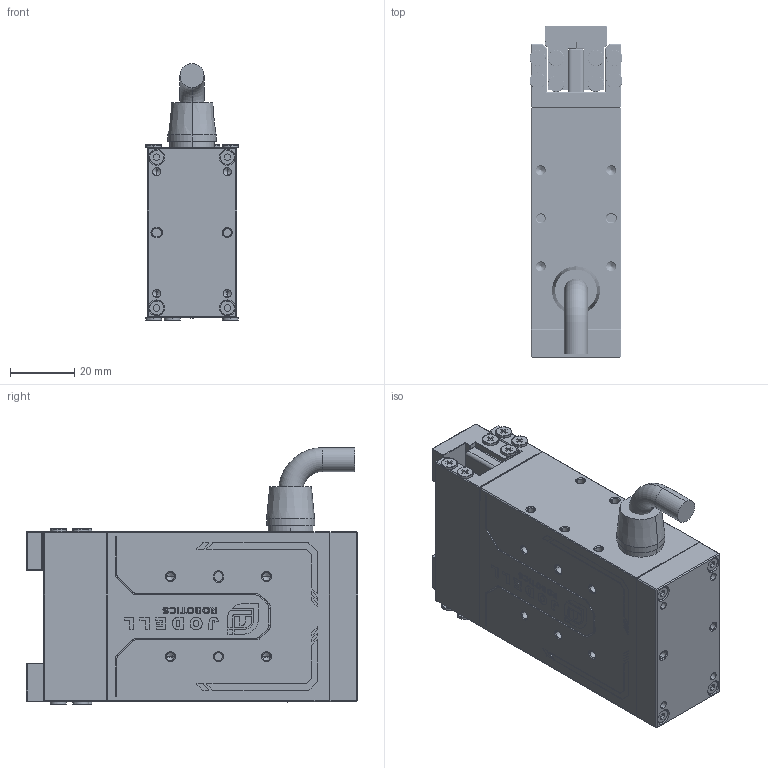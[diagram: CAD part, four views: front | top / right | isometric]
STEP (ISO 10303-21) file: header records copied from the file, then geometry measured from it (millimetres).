
FILE_DESCRIPTION (( 'STEP AP214' ), '1' );
FILE_NAME ('HEPG26-050-0L#-C5024-P40-A##.STEP', '2022-04-19T08:48:17', ( 'User' ), ( 'China' ), 'SwSTEP 2.0', 'SolidWorks 2016', '' );
FILE_SCHEMA (( 'AUTOMOTIVE_DESIGN' ));
Length unit declared in the file: millimetre
Products named in the file (2): HEPG26-050-0L#-C5024-P40-A##
Bounding box: 29 x 103.5 x 80.15 mm (x, y, z)
Volume: 147789.3 mm3; surface area: 42304.6 mm2
Topology: 39 solids, 39 shells, 2393 faces, 5874 edges, 3667 vertices
Faces by surface type: plane 1051, cylinder 738, cone 238, bspline 234, torus 130, sphere 2
Entity records: 130796 total; most frequent: CARTESIAN_POINT 50910, ORIENTED_EDGE 11580, DIRECTION 10034, EDGE_CURVE 5790, VERTEX_POINT 3667, LINE 3364, VECTOR 3364, AXIS2_PLACEMENT_3D 3335
